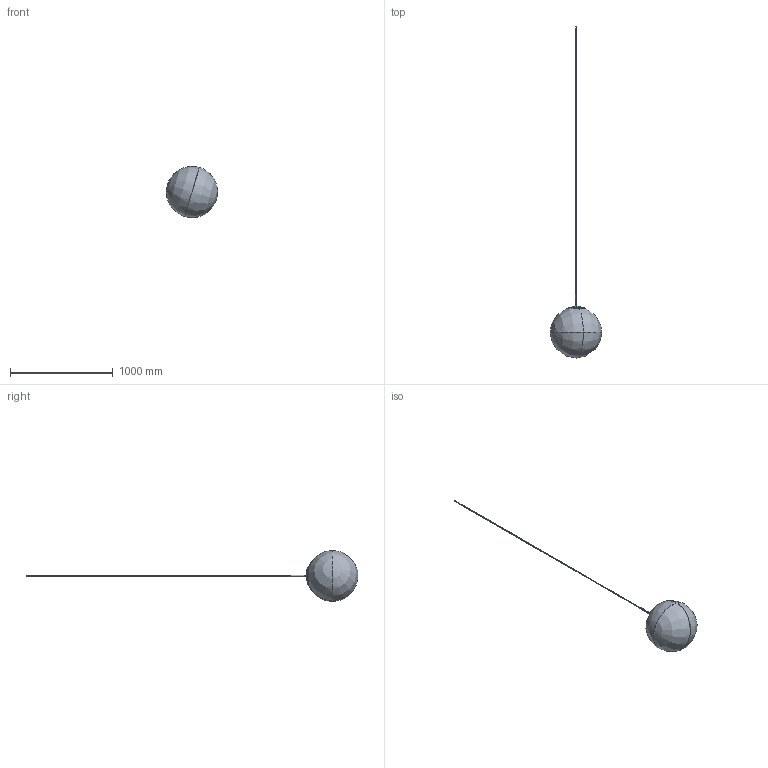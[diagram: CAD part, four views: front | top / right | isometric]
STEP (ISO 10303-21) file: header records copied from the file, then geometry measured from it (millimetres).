
FILE_DESCRIPTION(/* description */ (''),/* implementation_level */ '2;1');
FILE_NAME(/* name */ '50cm',/* time_stamp */ '2022-07-13T17:03:17+01:00',/* author */ (''),/* organization */ (''),/* preprocessor_version */ 'ST-DEVELOPER v16.5',/* originating_system */ '',/* authorisation */ '');
FILE_SCHEMA (('AUTOMOTIVE_DESIGN'));
Length unit declared in the file: millimetre
Products named in the file (10): OPAL LED; 2017-11-09 OPAL 50cm Shade; TAILSTOCK_ASSEMBLY_ANY_ASM; TAILSTOCK_TUBE_ANY; THREADED_TUBE_ANY; SOCKET_SET_SCREW_FLAT_POI-69718; SOCKET_SET_SCREW_FLAT_POI-12790; CABLE_GRIP_ANY; 2 Core Cable; LEDP02
Assembly tree (9 placements, depth 3):
  OPAL LED
    2017-11-09 OPAL 50cm Shade
    TAILSTOCK_ASSEMBLY_ANY_ASM
      TAILSTOCK_TUBE_ANY
      THREADED_TUBE_ANY
      SOCKET_SET_SCREW_FLAT_POI-69718
      SOCKET_SET_SCREW_FLAT_POI-12790
      CABLE_GRIP_ANY
    2 Core Cable
    LEDP02
Bounding box: 499.63 x 3234.48 x 499.63 mm (x, y, z)
Volume: 2542886.8 mm3; surface area: 1978606.3 mm2
Topology: 64 solids, 64 shells, 1446 faces, 3753 edges, 2441 vertices
Faces by surface type: bspline 801, plane 645
Entity records: 77342 total; most frequent: CARTESIAN_POINT 53035, ORIENTED_EDGE 7466, EDGE_CURVE 3733, B_SPLINE_CURVE_WITH_KNOTS 3022, VERTEX_POINT 2441, EDGE_LOOP 1554, ADVANCED_FACE 1446, FACE_OUTER_BOUND 1446
